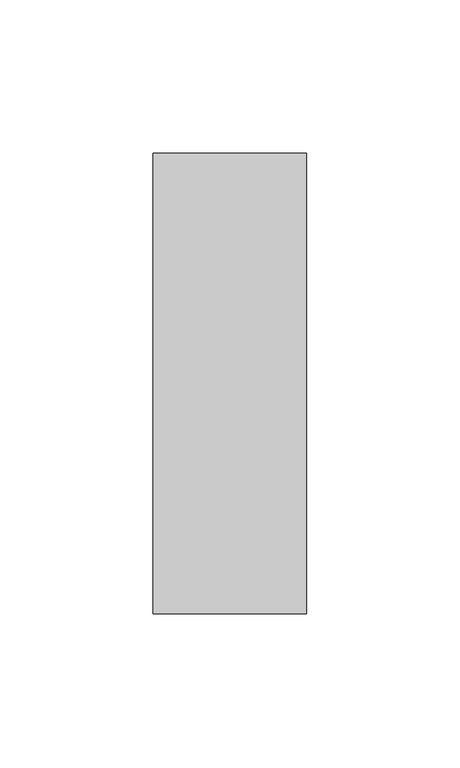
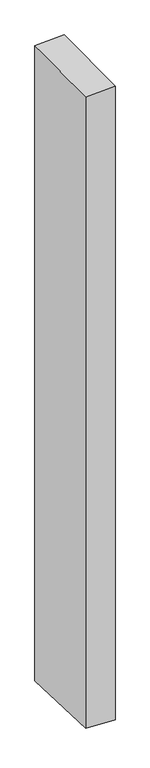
"""IFC4 building model written with IfcOpenShell, lengths in millimetres: member geometry, Прямоугольный импост : 50 x 150 мм."""

from ifc_helpers import new_model, si_unit, origin, place, context, project, spatial, faceted_brep, source, transform, mapped, element, save


def member_1b3585a3(model_context):
    return source(origin(), model_context, "Body", "Brep", [
        faceted_brep([(-25.0, 75.0, 0.0213053), (25.0, 75.0, 1.9438121), (25.0, 75.0, -1147.428877), (-25.0, 75.0, -1145.2646614), (-25.0, -75.0, -1.9438121), (-25.0, -75.0, -1139.8869907), (25.0, -75.0, -0.0213053), (25.0, -75.0, -1142.0512063)], [[[0, 1, 2, 3]], [[4, 0, 3, 5]], [[6, 4, 5, 7]], [[1, 6, 7, 2]], [[1, 0, 4, 6]], [[2, 7, 5, 3]]]),
    ])


if __name__ == "__main__":
    model = new_model("IFC4")
    model_context = context("Model", 3, world=origin())
    ifc_project = project(units=[si_unit("LENGTHUNIT", "METRE", prefix="MILLI")], contexts=[model_context])
    site = spatial("IfcSite", under=ifc_project)
    building = spatial("IfcBuilding", under=site)
    placement = place(None, origin())
    member_shape = member_1b3585a3(model_context)
    element("IfcMember", 1, ObjectType="Прямоугольный импост : 50 x 150 мм", at=placement, inside=building, context=model_context, shape_type="MappedRepresentation", body=[
        mapped(member_shape, transform((0.0, 0.0, 0.0), x_axis=(1.0, 0.0, 0.0), y_axis=(0.0, 1.0, 0.0), z_axis=(0.0, 0.0, 1.0))),
    ])
    save(model, "model.ifc")
